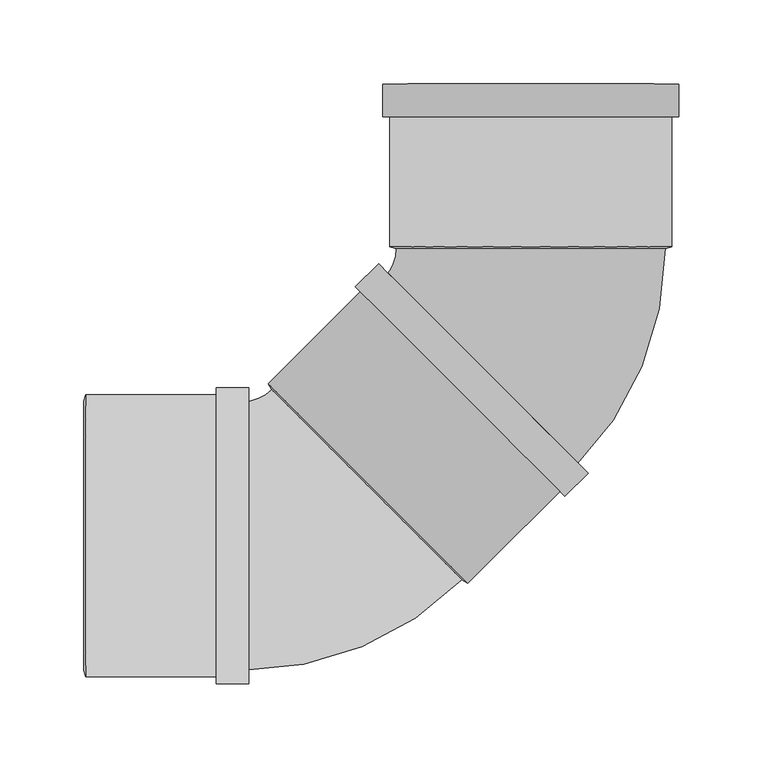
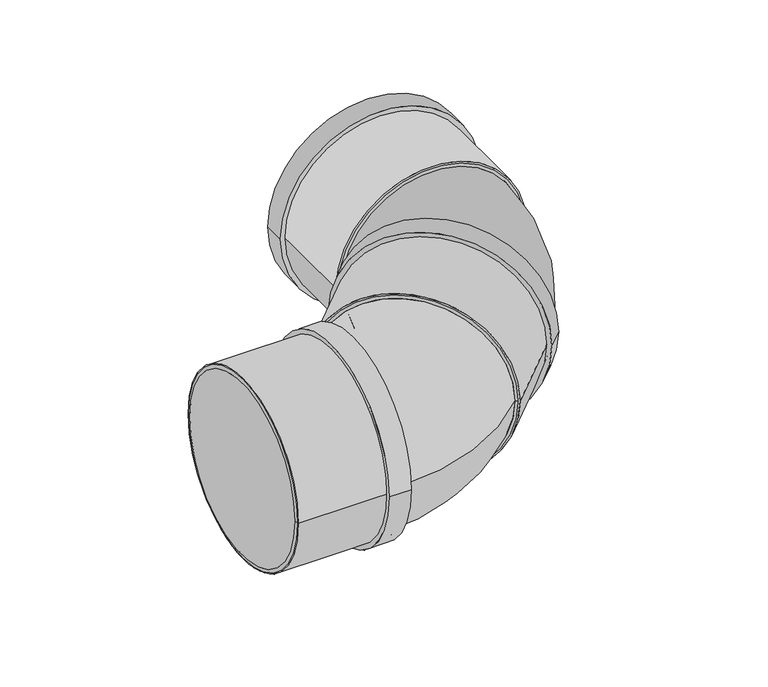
"""IFC4 building model written with IfcOpenShell, lengths in millimetres: pipe fitting geometry, Superdrain SK Bend_Composite 2x45 : Superdrain SK Bend_Composite 2x45."""

from ifc_helpers import new_model, si_unit, point, frame, origin, origin_2d, place, context, project, spatial, polyline, circle_curve, ellipse_curve, trimmed, segment, composite_curve, outline, extrude, source, transform, mapped, element, save
from ifc_brep_helpers import plane_surface, revolved_surface, advanced_brep


def pipe_fitting_4f30c85b(model_context):
    return source(origin(), model_context, "Body", "SolidModel", [
        advanced_brep(
        [(80.0, 170.9863274, 0.0), (-80.0, 170.9863274, 0.0), (26.1629509, 41.0121933, 0.0), (-86.9741341, 154.1492783, 0.0)],
        [
            (0, 1, circle_curve(frame((0.0, 170.9863274, 0.0), z_axis=(0.0, 1.0, 0.0), x_axis=(-1.0, 0.0, 0.0)), 80.0)),
            (1, 0, circle_curve(frame((0.0, 170.9863274, 0.0), z_axis=(0.0, 1.0, 0.0), x_axis=(-1.0, 0.0, 0.0)), 80.0)),
            (2, 3, circle_curve(frame((-30.4055916, 97.5807358, 0.0), z_axis=(-0.7071067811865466, -0.7071067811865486, 0.0), x_axis=(-0.7071067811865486, 0.7071067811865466, 0.0)), 80.0)),
            (3, 2, circle_curve(frame((-30.4055916, 97.5807358, 0.0), z_axis=(-0.7071067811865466, -0.7071067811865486, 0.0), x_axis=(-0.7071067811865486, 0.7071067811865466, 0.0)), 80.0)),
            (3, 1, circle_curve(frame((-103.8111832, 170.9863274, 0.0), z_axis=(0.0, 0.0, 1.0), x_axis=(0.707106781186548, 0.7071067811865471, 0.0)), 23.8111832)),
            (0, 2, circle_curve(frame((-103.8111832, 170.9863274, 0.0), z_axis=(0.0, 0.0, -1.0), x_axis=(0.707106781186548, 0.7071067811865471, 0.0)), 183.8111832)),
        ],
        [
            plane_surface(frame((0.0, 170.9863274, 0.0), z_axis=(0.0, 1.0, 0.0), x_axis=(0.0, 0.0, -1.0))),
            plane_surface(frame((-30.4055916, 97.5807358, 0.0), z_axis=(-0.7071067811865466, -0.7071067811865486, 0.0), x_axis=(0.0, 0.0, -1.0))),
            revolved_surface(trimmed(ellipse_curve(frame((-30.4055916, 244.391919, 0.0), z_axis=(0.7071067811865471, -0.707106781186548, 0.0), x_axis=(-0.707106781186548, -0.7071067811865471, 0.0)), 80.0, 80.0), [point((-86.9741341, 187.8233765, 0.0))], [point((26.1629509, 300.9604615, 0.0))], True, "CARTESIAN"), (-103.8111832, 170.9863274, 0.0), (0.0, 0.0, 1.0)),
            revolved_surface(trimmed(ellipse_curve(frame((-30.4055916, 244.391919, 0.0), z_axis=(0.7071067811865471, -0.707106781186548, 0.0), x_axis=(-0.707106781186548, -0.7071067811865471, 0.0)), 80.0, 80.0), [point((26.1629509, 300.9604615, 0.0))], [point((-86.9741341, 187.8233765, 0.0))], True, "CARTESIAN"), (-103.8111832, 170.9863274, 0.0), (0.0, 0.0, 1.0)),
        ],
        [
            (0, [[1, 2]]),
            (1, [[3, 4]]),
            (2, [[-4, 5, -1, 6]]),
            (3, [[-3, -6, -2, -5]]),
        ],
    ),
        extrude(outline(composite_curve([segment(trimmed(circle_curve(origin_2d(), 84.0), [point((0.0, 84.0))], [point((0.0, -84.0))], False, "CARTESIAN"), True, "CONTINUOUS"), segment(trimmed(circle_curve(origin_2d(), 84.0), [point((0.0, -84.0))], [point((0.0, 84.0))], False, "CARTESIAN"), True, "CONTINUOUS")], self_intersect=False), holes=[composite_curve([segment(trimmed(circle_curve(origin_2d(), 80.0), [point((0.0, 80.0))], [point((0.0, -80.0))], True, "CARTESIAN"), True, "CONTINUOUS"), segment(trimmed(circle_curve(origin_2d(), 80.0), [point((0.0, -80.0))], [point((0.0, 80.0))], True, "CARTESIAN"), True, "CONTINUOUS")], self_intersect=False)]), frame((0.0, 171.9863274, 0.0), z_axis=(0.0, 1.0, 0.0), x_axis=(0.0, 0.0, 1.0)), (0.0, 0.0, 1.0), 97.0),
        extrude(outline(composite_curve([segment(trimmed(circle_curve(origin_2d(), 88.2), [point((0.0, -88.2))], [point((0.0, 88.2))], False, "CARTESIAN"), True, "CONTINUOUS"), segment(trimmed(circle_curve(origin_2d(), 88.2), [point((0.0, 88.2))], [point((0.0, -88.2))], False, "CARTESIAN"), True, "CONTINUOUS")], self_intersect=False), holes=[composite_curve([segment(trimmed(circle_curve(origin_2d(), 80.0), [point((0.0, -80.0))], [point((0.0, 80.0))], True, "CARTESIAN"), True, "CONTINUOUS"), segment(trimmed(circle_curve(origin_2d(), 80.0), [point((0.0, 80.0))], [point((0.0, -80.0))], True, "CARTESIAN"), True, "CONTINUOUS")], self_intersect=False)]), frame((0.0, 249.5863274, 0.0), z_axis=(0.0, 1.0, 0.0), x_axis=(0.0, 0.0, 1.0)), (0.0, 0.0, 1.0), 19.4),
        advanced_brep(
        [(84.0, 171.9863274, 0.0), (-84.0, 171.9863274, 0.0), (80.0, 170.9863274, 0.0), (-80.0, 170.9863274, 0.0)],
        [
            (0, 1, circle_curve(frame((0.0, 171.9863274, 0.0), z_axis=(0.0, 1.0, 0.0), x_axis=(1.0, 0.0, 0.0)), 84.0)),
            (1, 0, circle_curve(frame((0.0, 171.9863274, 0.0), z_axis=(0.0, 1.0, 0.0), x_axis=(-1.0, 0.0, 0.0)), 84.0)),
            (2, 3, circle_curve(frame((0.0, 170.9863274, 0.0), z_axis=(0.0, -1.0, 0.0), x_axis=(-1.0, 0.0, 0.0)), 80.0)),
            (3, 2, circle_curve(frame((0.0, 170.9863274, 0.0), z_axis=(0.0, -1.0, 0.0), x_axis=(1.0, 0.0, 0.0)), 80.0)),
            (3, 1),
            (0, 2),
        ],
        [
            plane_surface(frame((0.0, 171.9863274, 0.0), z_axis=(0.0, 1.0, 0.0), x_axis=(0.0, 0.0, -1.0))),
            plane_surface(frame((0.0, 170.9863274, 0.0), z_axis=(0.0, -1.0, 0.0), x_axis=(0.0, 0.0, -1.0))),
            revolved_surface(polyline([(-80.0, 170.9863274, 0.0), (-84.0, 171.9863274, 0.0)]), (0.0, 150.9863274, 0.0), (0.0, 1.0, 0.0)),
            revolved_surface(polyline([(80.0, 170.9863274, 0.0), (84.0, 171.9863274, 0.0)]), (0.0, 150.9863274, 0.0), (0.0, 1.0, 0.0)),
        ],
        [
            (0, [[1, 2]]),
            (1, [[3, 4]]),
            (2, [[-4, 5, -1, 6]]),
            (3, [[-3, -6, -2, -5]]),
        ],
    ),
        extrude(outline(composite_curve([segment(trimmed(circle_curve(origin_2d(), 80.0), [point((0.0, -80.0))], [point((0.0, 80.0))], False, "CARTESIAN"), True, "CONTINUOUS"), segment(trimmed(circle_curve(origin_2d(), 80.0), [point((0.0, 80.0))], [point((0.0, -80.0))], False, "CARTESIAN"), True, "CONTINUOUS")], self_intersect=False)), frame((-96.873629, 31.1126984, 0.0), z_axis=(0.707106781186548, 0.7071067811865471, 0.0), x_axis=(0.0, 0.0, -1.0)), (0.0, 0.0, 1.0), 94.0),
        extrude(outline(composite_curve([segment(trimmed(circle_curve(origin_2d(), 84.0), [point((84.0, 0.0))], [point((-84.0, 0.0))], False, "CARTESIAN"), True, "CONTINUOUS"), segment(trimmed(circle_curve(origin_2d(), 84.0), [point((-84.0, 0.0))], [point((84.0, 0.0))], False, "CARTESIAN"), True, "CONTINUOUS")], self_intersect=False), holes=[composite_curve([segment(trimmed(circle_curve(origin_2d(), 80.0), [point((80.0, 0.0))], [point((-80.0, 0.0))], True, "CARTESIAN"), True, "CONTINUOUS"), segment(trimmed(circle_curve(origin_2d(), 80.0), [point((-80.0, 0.0))], [point((80.0, 0.0))], True, "CARTESIAN"), True, "CONTINUOUS")], self_intersect=False)]), frame((-264.9863274, 0.0, 0.0), z_axis=(1.0, 0.0, 0.0), x_axis=(0.0, 1.0, 0.0)), (0.0, 0.0, 1.0), 97.0),
        extrude(outline(composite_curve([segment(trimmed(circle_curve(origin_2d(), 88.2), [point((88.2, 0.0))], [point((-88.2, 0.0))], False, "CARTESIAN"), True, "CONTINUOUS"), segment(trimmed(circle_curve(origin_2d(), 88.2), [point((-88.2, 0.0))], [point((88.2, 0.0))], False, "CARTESIAN"), True, "CONTINUOUS")], self_intersect=False), holes=[composite_curve([segment(trimmed(circle_curve(origin_2d(), 80.0), [point((80.0, 0.0))], [point((-80.0, 0.0))], True, "CARTESIAN"), True, "CONTINUOUS"), segment(trimmed(circle_curve(origin_2d(), 80.0), [point((-80.0, 0.0))], [point((80.0, 0.0))], True, "CARTESIAN"), True, "CONTINUOUS")], self_intersect=False)]), frame((-187.3863274, 0.0, 0.0), z_axis=(1.0, 0.0, 0.0), x_axis=(0.0, 1.0, 0.0)), (0.0, 0.0, 1.0), 19.4),
        advanced_brep(
        [(-265.9863274, 80.0, 0.0), (-265.9863274, -80.0, 0.0), (-264.9863274, 84.0, 0.0), (-264.9863274, -84.0, 0.0)],
        [
            (0, 1, circle_curve(frame((-265.9863274, 0.0, 0.0), z_axis=(-1.0, 0.0, 0.0), x_axis=(0.0, 1.0, 0.0)), 80.0)),
            (1, 0, circle_curve(frame((-265.9863274, 0.0, 0.0), z_axis=(-1.0, 0.0, 0.0), x_axis=(0.0, -1.0, 0.0)), 80.0)),
            (2, 3, circle_curve(frame((-264.9863274, 0.0, 0.0), z_axis=(1.0, 0.0, 0.0), x_axis=(0.0, -1.0, 0.0)), 84.0)),
            (3, 2, circle_curve(frame((-264.9863274, 0.0, 0.0), z_axis=(1.0, 0.0, 0.0), x_axis=(0.0, 1.0, 0.0)), 84.0)),
            (3, 1),
            (0, 2),
        ],
        [
            plane_surface(frame((-265.9863274, 0.0, 0.0), z_axis=(-1.0, 0.0, 0.0), x_axis=(0.0, 0.0, -1.0))),
            plane_surface(frame((-264.9863274, 0.0, 0.0), z_axis=(1.0, 0.0, 0.0), x_axis=(0.0, 0.0, -1.0))),
            revolved_surface(polyline([(-265.9863274, 80.0, 0.0), (-264.9863274, 84.0, 0.0)]), (-285.9863274, 0.0, 0.0), (1.0, 0.0, 0.0)),
            revolved_surface(polyline([(-265.9863274, -80.0, 0.0), (-264.9863274, -84.0, 0.0)]), (-285.9863274, 0.0, 0.0), (1.0, 0.0, 0.0)),
        ],
        [
            (0, [[1, 2]]),
            (1, [[3, 4]]),
            (2, [[-4, 5, -1, 6]]),
            (3, [[-3, -6, -2, -5]]),
        ],
    ),
        advanced_brep(
        [(-41.0121933, -26.1629509, 0.0), (-154.1492783, 86.9741341, 0.0), (-170.9863274, -80.0, 0.0), (-170.9863274, 80.0, 0.0)],
        [
            (0, 1, circle_curve(frame((-97.5807358, 30.4055916, 0.0), z_axis=(0.7071067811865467, 0.7071067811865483, 0.0), x_axis=(-0.7071067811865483, 0.7071067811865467, 0.0)), 80.0)),
            (1, 0, circle_curve(frame((-97.5807358, 30.4055916, 0.0), z_axis=(0.7071067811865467, 0.7071067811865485, 0.0), x_axis=(-0.7071067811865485, 0.7071067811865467, 0.0)), 80.0)),
            (2, 3, circle_curve(frame((-170.9863274, 0.0, 0.0), z_axis=(-1.0, 0.0, 0.0), x_axis=(0.0, 1.0, 0.0)), 80.0)),
            (3, 2, circle_curve(frame((-170.9863274, 0.0, 0.0), z_axis=(-1.0, 0.0, 0.0), x_axis=(0.0, 1.0, 0.0)), 80.0)),
            (3, 1, circle_curve(frame((-170.9863274, 103.8111832, 0.0), z_axis=(0.0, 0.0, 1.0), x_axis=(1.0, 0.0, 0.0)), 23.8111832)),
            (0, 2, circle_curve(frame((-170.9863274, 103.8111832, 0.0), z_axis=(0.0, 0.0, -1.0), x_axis=(1.0, 0.0, 0.0)), 183.8111832)),
        ],
        [
            plane_surface(frame((-97.5807358, 30.4055916, 0.0), z_axis=(0.7071067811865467, 0.7071067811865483, 0.0), x_axis=(0.0, 0.0, -1.0))),
            plane_surface(frame((-170.9863274, 0.0, 0.0), z_axis=(-1.0, 0.0, 0.0), x_axis=(0.0, 0.0, -1.0))),
            revolved_surface(trimmed(ellipse_curve(frame((-67.1751442, 103.8111832, 0.0), z_axis=(0.0, -1.0, 0.0), x_axis=(-1.0, 0.0, 0.0)), 80.0, 80.0), [point((-147.1751442, 103.8111832, 0.0))], [point((12.8248558, 103.8111832, 0.0))], True, "CARTESIAN"), (-170.9863274, 103.8111832, 0.0), (0.0, 0.0, 1.0)),
            revolved_surface(trimmed(ellipse_curve(frame((-67.1751442, 103.8111832, 0.0), z_axis=(0.0, -1.0, 0.0), x_axis=(-1.0, 0.0, 0.0)), 80.0, 80.0), [point((12.8248558, 103.8111832, 0.0))], [point((-147.1751442, 103.8111832, 0.0))], True, "CARTESIAN"), (-170.9863274, 103.8111832, 0.0), (0.0, 0.0, 1.0)),
        ],
        [
            (0, [[1, 2]]),
            (1, [[3, 4]]),
            (2, [[-4, 5, -1, 6]]),
            (3, [[-3, -6, -2, -5]]),
        ],
    ),
        extrude(outline(composite_curve([segment(trimmed(circle_curve(origin_2d(), 84.0), [point((0.0, 84.0))], [point((0.0, -84.0))], False, "CARTESIAN"), True, "CONTINUOUS"), segment(trimmed(circle_curve(origin_2d(), 84.0), [point((0.0, -84.0))], [point((0.0, 84.0))], False, "CARTESIAN"), True, "CONTINUOUS")], self_intersect=False), holes=[composite_curve([segment(trimmed(circle_curve(origin_2d(), 80.0), [point((0.0, 80.0))], [point((0.0, -80.0))], True, "CARTESIAN"), True, "CONTINUOUS"), segment(trimmed(circle_curve(origin_2d(), 80.0), [point((0.0, -80.0))], [point((0.0, 80.0))], True, "CARTESIAN"), True, "CONTINUOUS")], self_intersect=False)]), frame((-96.873629, 31.1126984, 0.0), z_axis=(0.7071067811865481, 0.7071067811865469, 0.0), x_axis=(0.0, 0.0, 1.0)), (0.0, 0.0, 1.0), 97.0),
        extrude(outline(composite_curve([segment(trimmed(circle_curve(origin_2d(), 88.2), [point((0.0, -88.2))], [point((0.0, 88.2))], False, "CARTESIAN"), True, "CONTINUOUS"), segment(trimmed(circle_curve(origin_2d(), 88.2), [point((0.0, 88.2))], [point((0.0, -88.2))], False, "CARTESIAN"), True, "CONTINUOUS")], self_intersect=False), holes=[composite_curve([segment(trimmed(circle_curve(origin_2d(), 80.0), [point((0.0, -80.0))], [point((0.0, 80.0))], True, "CARTESIAN"), True, "CONTINUOUS"), segment(trimmed(circle_curve(origin_2d(), 80.0), [point((0.0, 80.0))], [point((0.0, -80.0))], True, "CARTESIAN"), True, "CONTINUOUS")], self_intersect=False)]), frame((-42.0021428, 85.9841846, 0.0), z_axis=(0.7071067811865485, 0.7071067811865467, 0.0), x_axis=(0.0, 0.0, 1.0)), (0.0, 0.0, 1.0), 19.4),
        advanced_brep(
        [(-37.4766594, -28.2842712, 0.0), (-156.2705986, 90.509668, 0.0), (-41.0121933, -26.1629509, 0.0), (-154.1492783, 86.9741341, 0.0)],
        [
            (0, 1, circle_curve(frame((-96.873629, 31.1126984, 0.0), z_axis=(0.7071067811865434, 0.7071067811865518, 0.0), x_axis=(0.7071067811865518, -0.7071067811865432, 0.0)), 84.0)),
            (1, 0, circle_curve(frame((-96.873629, 31.1126984, 0.0), z_axis=(0.7071067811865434, 0.7071067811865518, 0.0), x_axis=(-0.7071067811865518, 0.7071067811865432, 0.0)), 84.0)),
            (2, 3, circle_curve(frame((-97.5807358, 30.4055916, 0.0), z_axis=(-0.7071067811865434, -0.7071067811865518, 0.0), x_axis=(-0.7071067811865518, 0.7071067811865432, 0.0)), 80.0)),
            (3, 2, circle_curve(frame((-97.5807358, 30.4055916, 0.0), z_axis=(-0.7071067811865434, -0.7071067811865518, 0.0), x_axis=(0.7071067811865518, -0.7071067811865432, 0.0)), 80.0)),
            (3, 1),
            (0, 2),
        ],
        [
            plane_surface(frame((-96.873629, 31.1126984, 0.0), z_axis=(0.7071067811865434, 0.7071067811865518, 0.0), x_axis=(0.0, 0.0, -1.0))),
            plane_surface(frame((-97.5807358, 30.4055916, 0.0), z_axis=(-0.7071067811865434, -0.7071067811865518, 0.0), x_axis=(0.0, 0.0, -1.0))),
            revolved_surface(polyline([(-154.14927819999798, 86.97413399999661, 0.0), (-156.2705986, 90.509668, 0.0)]), (-111.7228714, 16.263456, 0.0), (0.7071067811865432, 0.7071067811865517, 0.0)),
            revolved_surface(polyline([(-41.01219340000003, -26.16295079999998, 0.0), (-37.47665939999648, -28.284271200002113, 0.0)]), (-111.7228714, 16.263456, 0.0), (0.7071067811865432, 0.7071067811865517, 0.0)),
        ],
        [
            (0, [[1, 2]]),
            (1, [[3, 4]]),
            (2, [[-4, 5, -1, 6]]),
            (3, [[-3, -6, -2, -5]]),
        ],
    ),
        extrude(outline(composite_curve([segment(trimmed(circle_curve(origin_2d(), 80.0), [point((-80.0, 0.0))], [point((80.0, 0.0))], False, "CARTESIAN"), True, "CONTINUOUS"), segment(trimmed(circle_curve(origin_2d(), 80.0), [point((80.0, 0.0))], [point((-80.0, 0.0))], False, "CARTESIAN"), True, "CONTINUOUS")], self_intersect=False)), frame((-264.9863274, 0.0, 0.0), z_axis=(1.0, 0.0, 0.0), x_axis=(0.0, 1.0, 0.0)), (0.0, 0.0, 1.0), 94.0),
    ])


if __name__ == "__main__":
    model = new_model("IFC4")
    model_context = context("Model", 3, world=origin())
    ifc_project = project(units=[si_unit("LENGTHUNIT", "METRE", prefix="MILLI")], contexts=[model_context])
    site = spatial("IfcSite", under=ifc_project)
    building = spatial("IfcBuilding", under=site)
    placement = place(None, origin())
    pipe_fitting_shape = pipe_fitting_4f30c85b(model_context)
    element("IfcPipeFitting", 1, ObjectType="Superdrain SK Bend_Composite 2x45 : Superdrain SK Bend_Composite 2x45", at=placement, inside=building, context=model_context, shape_type="MappedRepresentation", body=[
        mapped(pipe_fitting_shape, transform((0.0, 0.0, 0.0), x_axis=(1.0, 0.0, 0.0), y_axis=(0.0, 1.0, 0.0), z_axis=(0.0, 0.0, 1.0))),
    ])
    save(model, "model.ifc")
